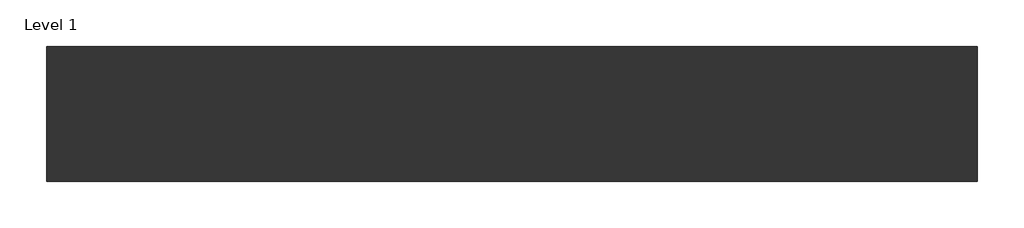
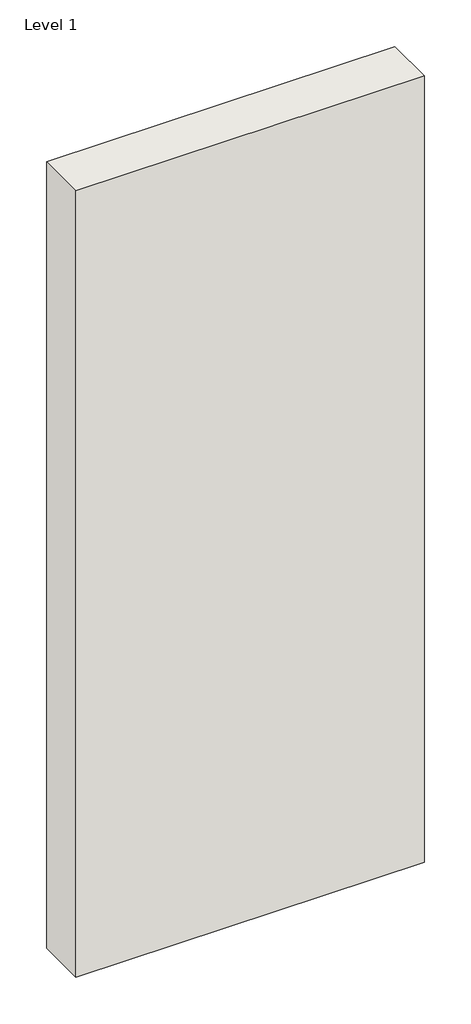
# One storey: 1 wall.
"""IFC4 building model written with IfcOpenShell, lengths in millimetres."""

from ifc_helpers import new_model, si_unit, origin, origin_with_axes, place, context, project, spatial, polyline, outline, extrude, element, save

model = new_model("IFC4")

# Units and contexts
model_context = context("Model", 3, world=origin())
ifc_project = project(units=[si_unit("LENGTHUNIT", "METRE", prefix="MILLI")], contexts=[model_context])

# Site, building, storey
site = spatial("IfcSite", under=ifc_project)
building = spatial("IfcBuilding", under=site)
storey = spatial("IfcBuildingStorey", under=building, Name="Level 1", Elevation=0.0)

# Wall
placement = place(None, origin())
element("IfcWall", 1, ObjectType="Fachada Placotherm Integra 185 mm arena APTA (Glasroc® X)", at=placement, inside=storey, context=model_context, shape_type="SweptSolid", body=[
    extrude(outline(polyline([(-28686.4711674, -101348.7360209), (-29943.1398319, -101348.7360209), (-29943.1398319, -101166.2360209), (-28686.4711674, -101166.2360209), (-28686.4711674, -101348.7360209)])), origin_with_axes(), (0.0, 0.0, 1.0), 3000.0),
])

save(model, "model.ifc")
